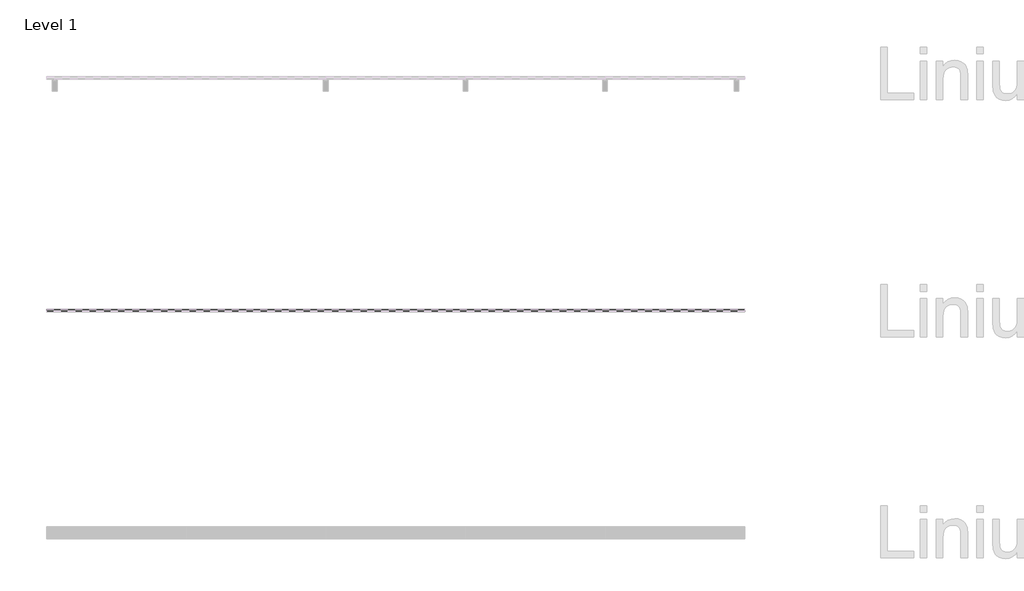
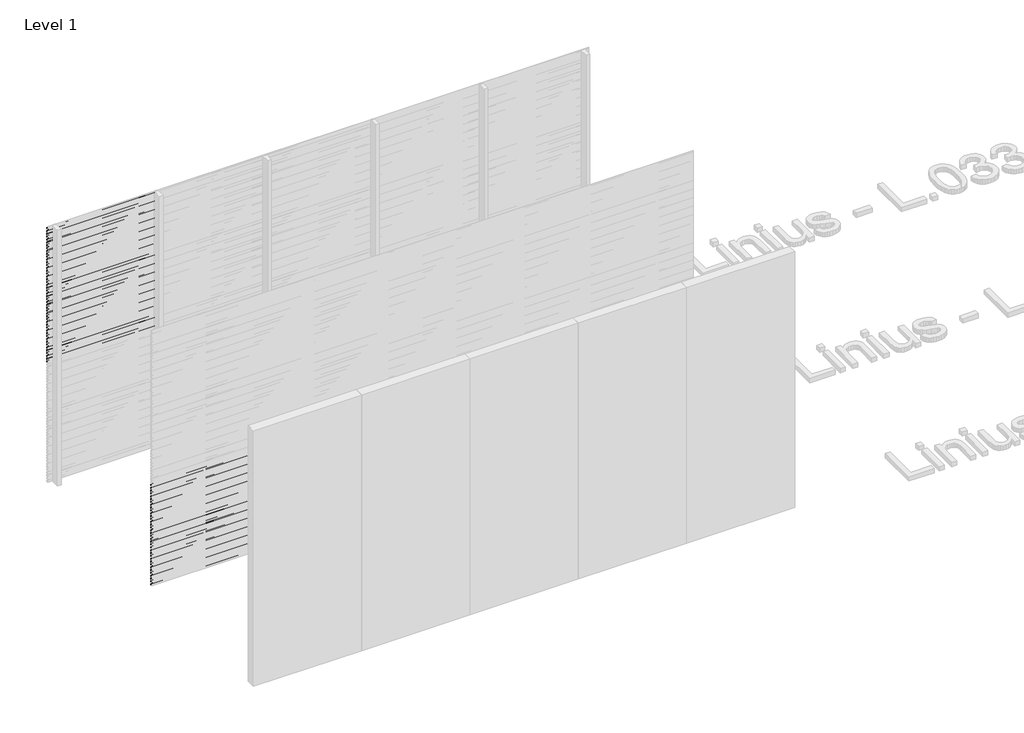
# One storey, part 35 of 507: 84 proxies.
"""IFC4 building model written with IfcOpenShell, lengths in millimetres."""

from ifc_helpers import new_model, si_unit, frame, origin, place, context, project, spatial, polyline, outline, extrude, element, save

model = new_model("IFC4")

# Units and contexts
model_context = context("Model", 3, world=origin())
ifc_project = project(units=[si_unit("LENGTHUNIT", "METRE", prefix="MILLI")], contexts=[model_context])

# Site, building, storey
site = spatial("IfcSite", under=ifc_project)
building = spatial("IfcBuilding", under=site)
storey = spatial("IfcBuildingStorey", under=building, Name="Level 1", Elevation=0.0)

# Proxies
placement = place(None, origin())
element("IfcBuildingElementProxy", 1, Name="Wall Sweeps", at=placement, inside=storey, context=model_context, shape_type="SweptSolid", body=[
    extrude(outline(polyline([(29003.4540136, 2973.0), (29003.4540136, 2959.5), (29002.2040136, 2960.2216933), (29002.2040136, 2972.2782281), (28983.0540136, 2983.3345698), (28983.0540136, 2997.0), (28984.3040136, 2997.0), (28984.3040136, 2984.0562577), (29003.4540136, 2973.0)])), frame((44966.6208097, 0.0, 0.0), z_axis=(1.0, 0.0, 0.0), x_axis=(0.0, 1.0, 0.0)), (0.0, 0.0, 1.0), 1200.0000002),
])
element("IfcBuildingElementProxy", 2, Name="Wall Sweeps", at=placement, inside=storey, context=model_context, shape_type="SweptSolid", body=[
    extrude(outline(polyline([(29003.4540136, 2939.7), (29003.4540136, 2926.2), (29002.2040136, 2926.9216933), (29002.2040136, 2938.9782281), (28983.0540136, 2950.0345698), (28983.0540136, 2963.7), (28984.3040136, 2963.7), (28984.3040136, 2950.7562577), (29003.4540136, 2939.7)])), frame((44966.6208097, 0.0, 0.0), z_axis=(1.0, 0.0, 0.0), x_axis=(0.0, 1.0, 0.0)), (0.0, 0.0, 1.0), 1200.0000002),
])
element("IfcBuildingElementProxy", 3, Name="Wall Sweeps", at=placement, inside=storey, context=model_context, shape_type="SweptSolid", body=[
    extrude(outline(polyline([(29003.4540136, 2906.4), (29003.4540136, 2892.9), (29002.2040136, 2893.6216933), (29002.2040136, 2905.6782281), (28983.0540136, 2916.7345698), (28983.0540136, 2930.4), (28984.3040136, 2930.4), (28984.3040136, 2917.4562577), (29003.4540136, 2906.4)])), frame((44966.6208097, 0.0, 0.0), z_axis=(1.0, 0.0, 0.0), x_axis=(0.0, 1.0, 0.0)), (0.0, 0.0, 1.0), 1200.0000002),
])
element("IfcBuildingElementProxy", 4, Name="Wall Sweeps", at=placement, inside=storey, context=model_context, shape_type="SweptSolid", body=[
    extrude(outline(polyline([(29003.4540136, 2873.1), (29003.4540136, 2859.6), (29002.2040136, 2860.3216933), (29002.2040136, 2872.3782281), (28983.0540136, 2883.4345698), (28983.0540136, 2897.1), (28984.3040136, 2897.1), (28984.3040136, 2884.1562577), (29003.4540136, 2873.1)])), frame((44966.6208097, 0.0, 0.0), z_axis=(1.0, 0.0, 0.0), x_axis=(0.0, 1.0, 0.0)), (0.0, 0.0, 1.0), 1200.0000002),
])
element("IfcBuildingElementProxy", 5, Name="Wall Sweeps", at=placement, inside=storey, context=model_context, shape_type="SweptSolid", body=[
    extrude(outline(polyline([(29003.4540136, 2839.8), (29003.4540136, 2826.3), (29002.2040136, 2827.0216933), (29002.2040136, 2839.0782281), (28983.0540136, 2850.1345698), (28983.0540136, 2863.8), (28984.3040136, 2863.8), (28984.3040136, 2850.8562577), (29003.4540136, 2839.8)])), frame((44966.6208097, 0.0, 0.0), z_axis=(1.0, 0.0, 0.0), x_axis=(0.0, 1.0, 0.0)), (0.0, 0.0, 1.0), 1200.0000002),
])
element("IfcBuildingElementProxy", 6, Name="Wall Sweeps", at=placement, inside=storey, context=model_context, shape_type="SweptSolid", body=[
    extrude(outline(polyline([(29003.4540136, 2806.5), (29003.4540136, 2793.0), (29002.2040136, 2793.7216933), (29002.2040136, 2805.7782281), (28983.0540136, 2816.8345698), (28983.0540136, 2830.5), (28984.3040136, 2830.5), (28984.3040136, 2817.5562577), (29003.4540136, 2806.5)])), frame((44966.6208097, 0.0, 0.0), z_axis=(1.0, 0.0, 0.0), x_axis=(0.0, 1.0, 0.0)), (0.0, 0.0, 1.0), 1200.0000002),
])
element("IfcBuildingElementProxy", 7, Name="Wall Sweeps", at=placement, inside=storey, context=model_context, shape_type="SweptSolid", body=[
    extrude(outline(polyline([(29003.4540136, 2773.2), (29003.4540136, 2759.7), (29002.2040136, 2760.4216933), (29002.2040136, 2772.4782281), (28983.0540136, 2783.5345698), (28983.0540136, 2797.2), (28984.3040136, 2797.2), (28984.3040136, 2784.2562577), (29003.4540136, 2773.2)])), frame((44966.6208097, 0.0, 0.0), z_axis=(1.0, 0.0, 0.0), x_axis=(0.0, 1.0, 0.0)), (0.0, 0.0, 1.0), 1200.0000002),
])
element("IfcBuildingElementProxy", 8, Name="Wall Sweeps", at=placement, inside=storey, context=model_context, shape_type="SweptSolid", body=[
    extrude(outline(polyline([(29003.4540136, 2739.9), (29003.4540136, 2726.4), (29002.2040136, 2727.1216933), (29002.2040136, 2739.1782281), (28983.0540136, 2750.2345698), (28983.0540136, 2763.9), (28984.3040136, 2763.9), (28984.3040136, 2750.9562577), (29003.4540136, 2739.9)])), frame((44966.6208097, 0.0, 0.0), z_axis=(1.0, 0.0, 0.0), x_axis=(0.0, 1.0, 0.0)), (0.0, 0.0, 1.0), 1200.0000002),
])
element("IfcBuildingElementProxy", 9, Name="Wall Sweeps", at=placement, inside=storey, context=model_context, shape_type="SweptSolid", body=[
    extrude(outline(polyline([(29003.4540136, 2706.6), (29003.4540136, 2693.1), (29002.2040136, 2693.8216933), (29002.2040136, 2705.8782281), (28983.0540136, 2716.9345698), (28983.0540136, 2730.6), (28984.3040136, 2730.6), (28984.3040136, 2717.6562577), (29003.4540136, 2706.6)])), frame((44966.6208097, 0.0, 0.0), z_axis=(1.0, 0.0, 0.0), x_axis=(0.0, 1.0, 0.0)), (0.0, 0.0, 1.0), 1200.0000002),
])
element("IfcBuildingElementProxy", 10, Name="Wall Sweeps", at=placement, inside=storey, context=model_context, shape_type="SweptSolid", body=[
    extrude(outline(polyline([(29003.4540136, 2673.3), (29003.4540136, 2659.8), (29002.2040136, 2660.5216933), (29002.2040136, 2672.5782281), (28983.0540136, 2683.6345698), (28983.0540136, 2697.3), (28984.3040136, 2697.3), (28984.3040136, 2684.3562577), (29003.4540136, 2673.3)])), frame((44966.6208097, 0.0, 0.0), z_axis=(1.0, 0.0, 0.0), x_axis=(0.0, 1.0, 0.0)), (0.0, 0.0, 1.0), 1200.0000002),
])
element("IfcBuildingElementProxy", 11, Name="Wall Sweeps", at=placement, inside=storey, context=model_context, shape_type="SweptSolid", body=[
    extrude(outline(polyline([(29003.4540136, 2640.0), (29003.4540136, 2626.5), (29002.2040136, 2627.2216933), (29002.2040136, 2639.2782281), (28983.0540136, 2650.3345698), (28983.0540136, 2664.0), (28984.3040136, 2664.0), (28984.3040136, 2651.0562577), (29003.4540136, 2640.0)])), frame((44966.6208097, 0.0, 0.0), z_axis=(1.0, 0.0, 0.0), x_axis=(0.0, 1.0, 0.0)), (0.0, 0.0, 1.0), 1200.0000002),
])
element("IfcBuildingElementProxy", 12, Name="Wall Sweeps", at=placement, inside=storey, context=model_context, shape_type="SweptSolid", body=[
    extrude(outline(polyline([(29003.4540136, 2606.7), (29003.4540136, 2593.2), (29002.2040136, 2593.9216933), (29002.2040136, 2605.9782281), (28983.0540136, 2617.0345698), (28983.0540136, 2630.7), (28984.3040136, 2630.7), (28984.3040136, 2617.7562577), (29003.4540136, 2606.7)])), frame((44966.6208097, 0.0, 0.0), z_axis=(1.0, 0.0, 0.0), x_axis=(0.0, 1.0, 0.0)), (0.0, 0.0, 1.0), 1200.0000002),
])
element("IfcBuildingElementProxy", 13, Name="Wall Sweeps", at=placement, inside=storey, context=model_context, shape_type="SweptSolid", body=[
    extrude(outline(polyline([(29003.4540136, 2573.4), (29003.4540136, 2559.9), (29002.2040136, 2560.6216933), (29002.2040136, 2572.6782281), (28983.0540136, 2583.7345698), (28983.0540136, 2597.4), (28984.3040136, 2597.4), (28984.3040136, 2584.4562577), (29003.4540136, 2573.4)])), frame((44966.6208097, 0.0, 0.0), z_axis=(1.0, 0.0, 0.0), x_axis=(0.0, 1.0, 0.0)), (0.0, 0.0, 1.0), 1200.0000002),
])
element("IfcBuildingElementProxy", 14, Name="Wall Sweeps", at=placement, inside=storey, context=model_context, shape_type="SweptSolid", body=[
    extrude(outline(polyline([(29003.4540136, 2540.1), (29003.4540136, 2526.6), (29002.2040136, 2527.3216933), (29002.2040136, 2539.3782281), (28983.0540136, 2550.4345698), (28983.0540136, 2564.1), (28984.3040136, 2564.1), (28984.3040136, 2551.1562577), (29003.4540136, 2540.1)])), frame((44966.6208097, 0.0, 0.0), z_axis=(1.0, 0.0, 0.0), x_axis=(0.0, 1.0, 0.0)), (0.0, 0.0, 1.0), 1200.0000002),
])
element("IfcBuildingElementProxy", 15, Name="Wall Sweeps", at=placement, inside=storey, context=model_context, shape_type="SweptSolid", body=[
    extrude(outline(polyline([(29003.4540136, 2506.8), (29003.4540136, 2493.3), (29002.2040136, 2494.0216933), (29002.2040136, 2506.0782281), (28983.0540136, 2517.1345698), (28983.0540136, 2530.8), (28984.3040136, 2530.8), (28984.3040136, 2517.8562577), (29003.4540136, 2506.8)])), frame((44966.6208097, 0.0, 0.0), z_axis=(1.0, 0.0, 0.0), x_axis=(0.0, 1.0, 0.0)), (0.0, 0.0, 1.0), 1200.0000002),
])
element("IfcBuildingElementProxy", 16, Name="Wall Sweeps", at=placement, inside=storey, context=model_context, shape_type="SweptSolid", body=[
    extrude(outline(polyline([(29003.4540136, 2473.5), (29003.4540136, 2460.0), (29002.2040136, 2460.7216933), (29002.2040136, 2472.7782281), (28983.0540136, 2483.8345698), (28983.0540136, 2497.5), (28984.3040136, 2497.5), (28984.3040136, 2484.5562577), (29003.4540136, 2473.5)])), frame((44966.6208097, 0.0, 0.0), z_axis=(1.0, 0.0, 0.0), x_axis=(0.0, 1.0, 0.0)), (0.0, 0.0, 1.0), 1200.0000002),
])
element("IfcBuildingElementProxy", 17, Name="Wall Sweeps", at=placement, inside=storey, context=model_context, shape_type="SweptSolid", body=[
    extrude(outline(polyline([(29003.4540136, 2440.2), (29003.4540136, 2426.7), (29002.2040136, 2427.4216933), (29002.2040136, 2439.4782281), (28983.0540136, 2450.5345698), (28983.0540136, 2464.2), (28984.3040136, 2464.2), (28984.3040136, 2451.2562577), (29003.4540136, 2440.2)])), frame((44966.6208097, 0.0, 0.0), z_axis=(1.0, 0.0, 0.0), x_axis=(0.0, 1.0, 0.0)), (0.0, 0.0, 1.0), 1200.0000002),
])
element("IfcBuildingElementProxy", 18, Name="Wall Sweeps", at=placement, inside=storey, context=model_context, shape_type="SweptSolid", body=[
    extrude(outline(polyline([(29003.4540136, 2406.9), (29003.4540136, 2393.4), (29002.2040136, 2394.1216933), (29002.2040136, 2406.1782281), (28983.0540136, 2417.2345698), (28983.0540136, 2430.9), (28984.3040136, 2430.9), (28984.3040136, 2417.9562577), (29003.4540136, 2406.9)])), frame((44966.6208097, 0.0, 0.0), z_axis=(1.0, 0.0, 0.0), x_axis=(0.0, 1.0, 0.0)), (0.0, 0.0, 1.0), 1200.0000002),
])
element("IfcBuildingElementProxy", 19, Name="Wall Sweeps", at=placement, inside=storey, context=model_context, shape_type="SweptSolid", body=[
    extrude(outline(polyline([(29003.4540136, 2373.6), (29003.4540136, 2360.1), (29002.2040136, 2360.8216933), (29002.2040136, 2372.8782281), (28983.0540136, 2383.9345698), (28983.0540136, 2397.6), (28984.3040136, 2397.6), (28984.3040136, 2384.6562577), (29003.4540136, 2373.6)])), frame((44966.6208097, 0.0, 0.0), z_axis=(1.0, 0.0, 0.0), x_axis=(0.0, 1.0, 0.0)), (0.0, 0.0, 1.0), 1200.0000002),
])
element("IfcBuildingElementProxy", 20, Name="Wall Sweeps", at=placement, inside=storey, context=model_context, shape_type="SweptSolid", body=[
    extrude(outline(polyline([(29003.4540136, 2340.3), (29003.4540136, 2326.8), (29002.2040136, 2327.5216933), (29002.2040136, 2339.5782281), (28983.0540136, 2350.6345698), (28983.0540136, 2364.3), (28984.3040136, 2364.3), (28984.3040136, 2351.3562577), (29003.4540136, 2340.3)])), frame((44966.6208097, 0.0, 0.0), z_axis=(1.0, 0.0, 0.0), x_axis=(0.0, 1.0, 0.0)), (0.0, 0.0, 1.0), 1200.0000002),
])
element("IfcBuildingElementProxy", 21, Name="Wall Sweeps", at=placement, inside=storey, context=model_context, shape_type="SweptSolid", body=[
    extrude(outline(polyline([(29003.4540136, 2307.0), (29003.4540136, 2293.5), (29002.2040136, 2294.2216933), (29002.2040136, 2306.2782281), (28983.0540136, 2317.3345698), (28983.0540136, 2331.0), (28984.3040136, 2331.0), (28984.3040136, 2318.0562577), (29003.4540136, 2307.0)])), frame((44966.6208097, 0.0, 0.0), z_axis=(1.0, 0.0, 0.0), x_axis=(0.0, 1.0, 0.0)), (0.0, 0.0, 1.0), 1200.0000002),
])
element("IfcBuildingElementProxy", 22, Name="Wall Sweeps", at=placement, inside=storey, context=model_context, shape_type="SweptSolid", body=[
    extrude(outline(polyline([(29003.4540136, 2273.7), (29003.4540136, 2260.2), (29002.2040136, 2260.9216933), (29002.2040136, 2272.9782281), (28983.0540136, 2284.0345698), (28983.0540136, 2297.7), (28984.3040136, 2297.7), (28984.3040136, 2284.7562577), (29003.4540136, 2273.7)])), frame((44966.6208097, 0.0, 0.0), z_axis=(1.0, 0.0, 0.0), x_axis=(0.0, 1.0, 0.0)), (0.0, 0.0, 1.0), 1200.0000002),
])
element("IfcBuildingElementProxy", 23, Name="Wall Sweeps", at=placement, inside=storey, context=model_context, shape_type="SweptSolid", body=[
    extrude(outline(polyline([(29003.4540136, 2240.4), (29003.4540136, 2226.9), (29002.2040136, 2227.6216933), (29002.2040136, 2239.6782281), (28983.0540136, 2250.7345698), (28983.0540136, 2264.4), (28984.3040136, 2264.4), (28984.3040136, 2251.4562577), (29003.4540136, 2240.4)])), frame((44966.6208097, 0.0, 0.0), z_axis=(1.0, 0.0, 0.0), x_axis=(0.0, 1.0, 0.0)), (0.0, 0.0, 1.0), 1200.0000002),
])
element("IfcBuildingElementProxy", 24, Name="Wall Sweeps", at=placement, inside=storey, context=model_context, shape_type="SweptSolid", body=[
    extrude(outline(polyline([(29003.4540136, 2207.1), (29003.4540136, 2193.6), (29002.2040136, 2194.3216933), (29002.2040136, 2206.3782281), (28983.0540136, 2217.4345698), (28983.0540136, 2231.1), (28984.3040136, 2231.1), (28984.3040136, 2218.1562577), (29003.4540136, 2207.1)])), frame((44966.6208097, 0.0, 0.0), z_axis=(1.0, 0.0, 0.0), x_axis=(0.0, 1.0, 0.0)), (0.0, 0.0, 1.0), 1200.0000002),
])
element("IfcBuildingElementProxy", 25, Name="Wall Sweeps", at=placement, inside=storey, context=model_context, shape_type="SweptSolid", body=[
    extrude(outline(polyline([(29003.4540136, 2173.8), (29003.4540136, 2160.3), (29002.2040136, 2161.0216933), (29002.2040136, 2173.0782281), (28983.0540136, 2184.1345698), (28983.0540136, 2197.8), (28984.3040136, 2197.8), (28984.3040136, 2184.8562577), (29003.4540136, 2173.8)])), frame((44966.6208097, 0.0, 0.0), z_axis=(1.0, 0.0, 0.0), x_axis=(0.0, 1.0, 0.0)), (0.0, 0.0, 1.0), 1200.0000002),
])
element("IfcBuildingElementProxy", 26, Name="Wall Sweeps", at=placement, inside=storey, context=model_context, shape_type="SweptSolid", body=[
    extrude(outline(polyline([(29003.4540136, 2140.5), (29003.4540136, 2127.0), (29002.2040136, 2127.7216933), (29002.2040136, 2139.7782281), (28983.0540136, 2150.8345698), (28983.0540136, 2164.5), (28984.3040136, 2164.5), (28984.3040136, 2151.5562577), (29003.4540136, 2140.5)])), frame((44966.6208097, 0.0, 0.0), z_axis=(1.0, 0.0, 0.0), x_axis=(0.0, 1.0, 0.0)), (0.0, 0.0, 1.0), 1200.0000002),
])
element("IfcBuildingElementProxy", 27, Name="Wall Sweeps", at=placement, inside=storey, context=model_context, shape_type="SweptSolid", body=[
    extrude(outline(polyline([(29003.4540136, 2107.2), (29003.4540136, 2093.7), (29002.2040136, 2094.4216933), (29002.2040136, 2106.4782281), (28983.0540136, 2117.5345698), (28983.0540136, 2131.2), (28984.3040136, 2131.2), (28984.3040136, 2118.2562577), (29003.4540136, 2107.2)])), frame((44966.6208097, 0.0, 0.0), z_axis=(1.0, 0.0, 0.0), x_axis=(0.0, 1.0, 0.0)), (0.0, 0.0, 1.0), 1200.0000002),
])
element("IfcBuildingElementProxy", 28, Name="Wall Sweeps", at=placement, inside=storey, context=model_context, shape_type="SweptSolid", body=[
    extrude(outline(polyline([(29003.4540136, 2073.9), (29003.4540136, 2060.4), (29002.2040136, 2061.1216933), (29002.2040136, 2073.1782281), (28983.0540136, 2084.2345698), (28983.0540136, 2097.9), (28984.3040136, 2097.9), (28984.3040136, 2084.9562577), (29003.4540136, 2073.9)])), frame((44966.6208097, 0.0, 0.0), z_axis=(1.0, 0.0, 0.0), x_axis=(0.0, 1.0, 0.0)), (0.0, 0.0, 1.0), 1200.0000002),
])
element("IfcBuildingElementProxy", 29, Name="Wall Sweeps", at=placement, inside=storey, context=model_context, shape_type="SweptSolid", body=[
    extrude(outline(polyline([(29003.4540136, 2040.6), (29003.4540136, 2027.1), (29002.2040136, 2027.8216933), (29002.2040136, 2039.8782281), (28983.0540136, 2050.9345698), (28983.0540136, 2064.6), (28984.3040136, 2064.6), (28984.3040136, 2051.6562577), (29003.4540136, 2040.6)])), frame((44966.6208097, 0.0, 0.0), z_axis=(1.0, 0.0, 0.0), x_axis=(0.0, 1.0, 0.0)), (0.0, 0.0, 1.0), 1200.0000002),
])
element("IfcBuildingElementProxy", 30, Name="Wall Sweeps", at=placement, inside=storey, context=model_context, shape_type="SweptSolid", body=[
    extrude(outline(polyline([(29003.4540136, 2007.3), (29003.4540136, 1993.8), (29002.2040136, 1994.5216933), (29002.2040136, 2006.5782281), (28983.0540136, 2017.6345698), (28983.0540136, 2031.3), (28984.3040136, 2031.3), (28984.3040136, 2018.3562577), (29003.4540136, 2007.3)])), frame((44966.6208097, 0.0, 0.0), z_axis=(1.0, 0.0, 0.0), x_axis=(0.0, 1.0, 0.0)), (0.0, 0.0, 1.0), 1200.0000002),
])
element("IfcBuildingElementProxy", 31, Name="Wall Sweeps", at=placement, inside=storey, context=model_context, shape_type="SweptSolid", body=[
    extrude(outline(polyline([(29003.4540136, 1974.0), (29003.4540136, 1960.5), (29002.2040136, 1961.2216933), (29002.2040136, 1973.2782281), (28983.0540136, 1984.3345698), (28983.0540136, 1998.0), (28984.3040136, 1998.0), (28984.3040136, 1985.0562577), (29003.4540136, 1974.0)])), frame((44966.6208097, 0.0, 0.0), z_axis=(1.0, 0.0, 0.0), x_axis=(0.0, 1.0, 0.0)), (0.0, 0.0, 1.0), 1200.0000002),
])
element("IfcBuildingElementProxy", 32, Name="Wall Sweeps", at=placement, inside=storey, context=model_context, shape_type="SweptSolid", body=[
    extrude(outline(polyline([(29003.4540136, 1940.7), (29003.4540136, 1927.2), (29002.2040136, 1927.9216933), (29002.2040136, 1939.9782281), (28983.0540136, 1951.0345698), (28983.0540136, 1964.7), (28984.3040136, 1964.7), (28984.3040136, 1951.7562577), (29003.4540136, 1940.7)])), frame((44966.6208097, 0.0, 0.0), z_axis=(1.0, 0.0, 0.0), x_axis=(0.0, 1.0, 0.0)), (0.0, 0.0, 1.0), 1200.0000002),
])
element("IfcBuildingElementProxy", 33, Name="Wall Sweeps", at=placement, inside=storey, context=model_context, shape_type="SweptSolid", body=[
    extrude(outline(polyline([(29003.4540136, 1907.4), (29003.4540136, 1893.9), (29002.2040136, 1894.6216933), (29002.2040136, 1906.6782281), (28983.0540136, 1917.7345698), (28983.0540136, 1931.4), (28984.3040136, 1931.4), (28984.3040136, 1918.4562577), (29003.4540136, 1907.4)])), frame((44966.6208097, 0.0, 0.0), z_axis=(1.0, 0.0, 0.0), x_axis=(0.0, 1.0, 0.0)), (0.0, 0.0, 1.0), 1200.0000002),
])
element("IfcBuildingElementProxy", 34, Name="Wall Sweeps", at=placement, inside=storey, context=model_context, shape_type="SweptSolid", body=[
    extrude(outline(polyline([(29003.4540136, 1874.1), (29003.4540136, 1860.6), (29002.2040136, 1861.3216933), (29002.2040136, 1873.3782281), (28983.0540136, 1884.4345698), (28983.0540136, 1898.1), (28984.3040136, 1898.1), (28984.3040136, 1885.1562577), (29003.4540136, 1874.1)])), frame((44966.6208097, 0.0, 0.0), z_axis=(1.0, 0.0, 0.0), x_axis=(0.0, 1.0, 0.0)), (0.0, 0.0, 1.0), 1200.0000002),
])
element("IfcBuildingElementProxy", 35, Name="Wall Sweeps", at=placement, inside=storey, context=model_context, shape_type="SweptSolid", body=[
    extrude(outline(polyline([(29003.4540136, 1840.8), (29003.4540136, 1827.3), (29002.2040136, 1828.0216933), (29002.2040136, 1840.0782281), (28983.0540136, 1851.1345698), (28983.0540136, 1864.8), (28984.3040136, 1864.8), (28984.3040136, 1851.8562577), (29003.4540136, 1840.8)])), frame((44966.6208097, 0.0, 0.0), z_axis=(1.0, 0.0, 0.0), x_axis=(0.0, 1.0, 0.0)), (0.0, 0.0, 1.0), 1200.0000002),
])
element("IfcBuildingElementProxy", 36, Name="Wall Sweeps", at=placement, inside=storey, context=model_context, shape_type="SweptSolid", body=[
    extrude(outline(polyline([(29003.4540136, 1807.5), (29003.4540136, 1794.0), (29002.2040136, 1794.7216933), (29002.2040136, 1806.7782281), (28983.0540136, 1817.8345698), (28983.0540136, 1831.5), (28984.3040136, 1831.5), (28984.3040136, 1818.5562577), (29003.4540136, 1807.5)])), frame((44966.6208097, 0.0, 0.0), z_axis=(1.0, 0.0, 0.0), x_axis=(0.0, 1.0, 0.0)), (0.0, 0.0, 1.0), 1200.0000002),
])
element("IfcBuildingElementProxy", 37, Name="Wall Sweeps", at=placement, inside=storey, context=model_context, shape_type="SweptSolid", body=[
    extrude(outline(polyline([(29003.4540136, 1774.2), (29003.4540136, 1760.7), (29002.2040136, 1761.4216933), (29002.2040136, 1773.4782281), (28983.0540136, 1784.5345698), (28983.0540136, 1798.2), (28984.3040136, 1798.2), (28984.3040136, 1785.2562577), (29003.4540136, 1774.2)])), frame((44966.6208097, 0.0, 0.0), z_axis=(1.0, 0.0, 0.0), x_axis=(0.0, 1.0, 0.0)), (0.0, 0.0, 1.0), 1200.0000002),
])
element("IfcBuildingElementProxy", 38, Name="Wall Sweeps", at=placement, inside=storey, context=model_context, shape_type="SweptSolid", body=[
    extrude(outline(polyline([(29003.4540136, 1740.9), (29003.4540136, 1727.4), (29002.2040136, 1728.1216933), (29002.2040136, 1740.1782281), (28983.0540136, 1751.2345698), (28983.0540136, 1764.9), (28984.3040136, 1764.9), (28984.3040136, 1751.9562577), (29003.4540136, 1740.9)])), frame((44966.6208097, 0.0, 0.0), z_axis=(1.0, 0.0, 0.0), x_axis=(0.0, 1.0, 0.0)), (0.0, 0.0, 1.0), 1200.0000002),
])
element("IfcBuildingElementProxy", 39, Name="Wall Sweeps", at=placement, inside=storey, context=model_context, shape_type="SweptSolid", body=[
    extrude(outline(polyline([(29003.4540136, 1707.6), (29003.4540136, 1694.1), (29002.2040136, 1694.8216933), (29002.2040136, 1706.8782281), (28983.0540136, 1717.9345698), (28983.0540136, 1731.6), (28984.3040136, 1731.6), (28984.3040136, 1718.6562577), (29003.4540136, 1707.6)])), frame((44966.6208097, 0.0, 0.0), z_axis=(1.0, 0.0, 0.0), x_axis=(0.0, 1.0, 0.0)), (0.0, 0.0, 1.0), 1200.0000002),
])
element("IfcBuildingElementProxy", 40, Name="Wall Sweeps", at=placement, inside=storey, context=model_context, shape_type="SweptSolid", body=[
    extrude(outline(polyline([(29003.4540136, 1674.3), (29003.4540136, 1660.8), (29002.2040136, 1661.5216933), (29002.2040136, 1673.5782281), (28983.0540136, 1684.6345698), (28983.0540136, 1698.3), (28984.3040136, 1698.3), (28984.3040136, 1685.3562577), (29003.4540136, 1674.3)])), frame((44966.6208097, 0.0, 0.0), z_axis=(1.0, 0.0, 0.0), x_axis=(0.0, 1.0, 0.0)), (0.0, 0.0, 1.0), 1200.0000002),
])
element("IfcBuildingElementProxy", 41, Name="Wall Sweeps", at=placement, inside=storey, context=model_context, shape_type="SweptSolid", body=[
    extrude(outline(polyline([(29003.4540136, 1641.0), (29003.4540136, 1627.5), (29002.2040136, 1628.2216933), (29002.2040136, 1640.2782281), (28983.0540136, 1651.3345698), (28983.0540136, 1665.0), (28984.3040136, 1665.0), (28984.3040136, 1652.0562577), (29003.4540136, 1641.0)])), frame((44966.6208097, 0.0, 0.0), z_axis=(1.0, 0.0, 0.0), x_axis=(0.0, 1.0, 0.0)), (0.0, 0.0, 1.0), 1200.0000002),
])
element("IfcBuildingElementProxy", 42, Name="Wall Sweeps", at=placement, inside=storey, context=model_context, shape_type="SweptSolid", body=[
    extrude(outline(polyline([(29003.4540136, 1607.7), (29003.4540136, 1594.2), (29002.2040136, 1594.9216933), (29002.2040136, 1606.9782281), (28983.0540136, 1618.0345698), (28983.0540136, 1631.7), (28984.3040136, 1631.7), (28984.3040136, 1618.7562577), (29003.4540136, 1607.7)])), frame((44966.6208097, 0.0, 0.0), z_axis=(1.0, 0.0, 0.0), x_axis=(0.0, 1.0, 0.0)), (0.0, 0.0, 1.0), 1200.0000002),
])
element("IfcBuildingElementProxy", 43, Name="Wall Sweeps", at=placement, inside=storey, context=model_context, shape_type="SweptSolid", body=[
    extrude(outline(polyline([(29003.4540136, 1574.4), (29003.4540136, 1560.9), (29002.2040136, 1561.6216933), (29002.2040136, 1573.6782281), (28983.0540136, 1584.7345698), (28983.0540136, 1598.4), (28984.3040136, 1598.4), (28984.3040136, 1585.4562577), (29003.4540136, 1574.4)])), frame((44966.6208097, 0.0, 0.0), z_axis=(1.0, 0.0, 0.0), x_axis=(0.0, 1.0, 0.0)), (0.0, 0.0, 1.0), 1200.0000002),
])
element("IfcBuildingElementProxy", 44, Name="Wall Sweeps", at=placement, inside=storey, context=model_context, shape_type="SweptSolid", body=[
    extrude(outline(polyline([(29003.4540136, 1541.1), (29003.4540136, 1527.6), (29002.2040136, 1528.3216933), (29002.2040136, 1540.3782281), (28983.0540136, 1551.4345698), (28983.0540136, 1565.1), (28984.3040136, 1565.1), (28984.3040136, 1552.1562577), (29003.4540136, 1541.1)])), frame((44966.6208097, 0.0, 0.0), z_axis=(1.0, 0.0, 0.0), x_axis=(0.0, 1.0, 0.0)), (0.0, 0.0, 1.0), 1200.0000002),
])
element("IfcBuildingElementProxy", 45, Name="Wall Sweeps", at=placement, inside=storey, context=model_context, shape_type="SweptSolid", body=[
    extrude(outline(polyline([(29003.4540136, 1507.8), (29003.4540136, 1494.3), (29002.2040136, 1495.0216933), (29002.2040136, 1507.0782281), (28983.0540136, 1518.1345698), (28983.0540136, 1531.8), (28984.3040136, 1531.8), (28984.3040136, 1518.8562577), (29003.4540136, 1507.8)])), frame((44966.6208097, 0.0, 0.0), z_axis=(1.0, 0.0, 0.0), x_axis=(0.0, 1.0, 0.0)), (0.0, 0.0, 1.0), 1200.0000002),
])
element("IfcBuildingElementProxy", 46, Name="Wall Sweeps", at=placement, inside=storey, context=model_context, shape_type="SweptSolid", body=[
    extrude(outline(polyline([(29003.4540136, 1474.5), (29003.4540136, 1461.0), (29002.2040136, 1461.7216933), (29002.2040136, 1473.7782281), (28983.0540136, 1484.8345698), (28983.0540136, 1498.5), (28984.3040136, 1498.5), (28984.3040136, 1485.5562577), (29003.4540136, 1474.5)])), frame((44966.6208097, 0.0, 0.0), z_axis=(1.0, 0.0, 0.0), x_axis=(0.0, 1.0, 0.0)), (0.0, 0.0, 1.0), 1200.0000002),
])
element("IfcBuildingElementProxy", 47, Name="Wall Sweeps", at=placement, inside=storey, context=model_context, shape_type="SweptSolid", body=[
    extrude(outline(polyline([(29003.4540136, 1441.2), (29003.4540136, 1427.7), (29002.2040136, 1428.4216933), (29002.2040136, 1440.4782281), (28983.0540136, 1451.5345698), (28983.0540136, 1465.2), (28984.3040136, 1465.2), (28984.3040136, 1452.2562577), (29003.4540136, 1441.2)])), frame((44966.6208097, 0.0, 0.0), z_axis=(1.0, 0.0, 0.0), x_axis=(0.0, 1.0, 0.0)), (0.0, 0.0, 1.0), 1200.0000002),
])
element("IfcBuildingElementProxy", 48, Name="Wall Sweeps", at=placement, inside=storey, context=model_context, shape_type="SweptSolid", body=[
    extrude(outline(polyline([(29003.4540136, 1407.9), (29003.4540136, 1394.4), (29002.2040136, 1395.1216933), (29002.2040136, 1407.1782281), (28983.0540136, 1418.2345698), (28983.0540136, 1431.9), (28984.3040136, 1431.9), (28984.3040136, 1418.9562577), (29003.4540136, 1407.9)])), frame((44966.6208097, 0.0, 0.0), z_axis=(1.0, 0.0, 0.0), x_axis=(0.0, 1.0, 0.0)), (0.0, 0.0, 1.0), 1200.0000002),
])
element("IfcBuildingElementProxy", 49, Name="Wall Sweeps", at=placement, inside=storey, context=model_context, shape_type="SweptSolid", body=[
    extrude(outline(polyline([(27003.4540136, 1174.8), (27003.4540136, 1161.3), (27002.2040136, 1162.0216933), (27002.2040136, 1174.0782281), (26983.0540136, 1185.1345698), (26983.0540136, 1198.8), (26984.3040136, 1198.8), (26984.3040136, 1185.8562577), (27003.4540136, 1174.8)])), frame((44966.6208097, 0.0, 0.0), z_axis=(1.0, 0.0, 0.0), x_axis=(0.0, 1.0, 0.0)), (0.0, 0.0, 1.0), 6000.0),
])
element("IfcBuildingElementProxy", 50, Name="Wall Sweeps", at=placement, inside=storey, context=model_context, shape_type="SweptSolid", body=[
    extrude(outline(polyline([(27003.4540136, 1141.5), (27003.4540136, 1128.0), (27002.2040136, 1128.7216933), (27002.2040136, 1140.7782281), (26983.0540136, 1151.8345698), (26983.0540136, 1165.5), (26984.3040136, 1165.5), (26984.3040136, 1152.5562577), (27003.4540136, 1141.5)])), frame((44966.6208097, 0.0, 0.0), z_axis=(1.0, 0.0, 0.0), x_axis=(0.0, 1.0, 0.0)), (0.0, 0.0, 1.0), 6000.0),
])
element("IfcBuildingElementProxy", 51, Name="Wall Sweeps", at=placement, inside=storey, context=model_context, shape_type="SweptSolid", body=[
    extrude(outline(polyline([(27003.4540136, 1108.2), (27003.4540136, 1094.7), (27002.2040136, 1095.4216933), (27002.2040136, 1107.4782281), (26983.0540136, 1118.5345698), (26983.0540136, 1132.2), (26984.3040136, 1132.2), (26984.3040136, 1119.2562577), (27003.4540136, 1108.2)])), frame((44966.6208097, 0.0, 0.0), z_axis=(1.0, 0.0, 0.0), x_axis=(0.0, 1.0, 0.0)), (0.0, 0.0, 1.0), 6000.0),
])
element("IfcBuildingElementProxy", 52, Name="Wall Sweeps", at=placement, inside=storey, context=model_context, shape_type="SweptSolid", body=[
    extrude(outline(polyline([(27003.4540136, 1074.9), (27003.4540136, 1061.4), (27002.2040136, 1062.1216933), (27002.2040136, 1074.1782281), (26983.0540136, 1085.2345698), (26983.0540136, 1098.9), (26984.3040136, 1098.9), (26984.3040136, 1085.9562577), (27003.4540136, 1074.9)])), frame((44966.6208097, 0.0, 0.0), z_axis=(1.0, 0.0, 0.0), x_axis=(0.0, 1.0, 0.0)), (0.0, 0.0, 1.0), 6000.0),
])
element("IfcBuildingElementProxy", 53, Name="Wall Sweeps", at=placement, inside=storey, context=model_context, shape_type="SweptSolid", body=[
    extrude(outline(polyline([(27003.4540136, 1041.6), (27003.4540136, 1028.1), (27002.2040136, 1028.8216933), (27002.2040136, 1040.8782281), (26983.0540136, 1051.9345698), (26983.0540136, 1065.6), (26984.3040136, 1065.6), (26984.3040136, 1052.6562577), (27003.4540136, 1041.6)])), frame((44966.6208097, 0.0, 0.0), z_axis=(1.0, 0.0, 0.0), x_axis=(0.0, 1.0, 0.0)), (0.0, 0.0, 1.0), 6000.0),
])
element("IfcBuildingElementProxy", 54, Name="Wall Sweeps", at=placement, inside=storey, context=model_context, shape_type="SweptSolid", body=[
    extrude(outline(polyline([(27003.4540136, 1008.3), (27003.4540136, 994.8), (27002.2040136, 995.5216933), (27002.2040136, 1007.5782281), (26983.0540136, 1018.6345698), (26983.0540136, 1032.3), (26984.3040136, 1032.3), (26984.3040136, 1019.3562577), (27003.4540136, 1008.3)])), frame((44966.6208097, 0.0, 0.0), z_axis=(1.0, 0.0, 0.0), x_axis=(0.0, 1.0, 0.0)), (0.0, 0.0, 1.0), 6000.0),
])
element("IfcBuildingElementProxy", 55, Name="Wall Sweeps", at=placement, inside=storey, context=model_context, shape_type="SweptSolid", body=[
    extrude(outline(polyline([(27003.4540136, 975.0), (27003.4540136, 961.5), (27002.2040136, 962.2216933), (27002.2040136, 974.2782281), (26983.0540136, 985.3345698), (26983.0540136, 999.0), (26984.3040136, 999.0), (26984.3040136, 986.0562577), (27003.4540136, 975.0)])), frame((44966.6208097, 0.0, 0.0), z_axis=(1.0, 0.0, 0.0), x_axis=(0.0, 1.0, 0.0)), (0.0, 0.0, 1.0), 6000.0),
])
element("IfcBuildingElementProxy", 56, Name="Wall Sweeps", at=placement, inside=storey, context=model_context, shape_type="SweptSolid", body=[
    extrude(outline(polyline([(27003.4540136, 941.7), (27003.4540136, 928.2), (27002.2040136, 928.9216933), (27002.2040136, 940.9782281), (26983.0540136, 952.0345698), (26983.0540136, 965.7), (26984.3040136, 965.7), (26984.3040136, 952.7562577), (27003.4540136, 941.7)])), frame((44966.6208097, 0.0, 0.0), z_axis=(1.0, 0.0, 0.0), x_axis=(0.0, 1.0, 0.0)), (0.0, 0.0, 1.0), 6000.0),
])
element("IfcBuildingElementProxy", 57, Name="Wall Sweeps", at=placement, inside=storey, context=model_context, shape_type="SweptSolid", body=[
    extrude(outline(polyline([(27003.4540136, 908.4), (27003.4540136, 894.9), (27002.2040136, 895.6216933), (27002.2040136, 907.6782281), (26983.0540136, 918.7345698), (26983.0540136, 932.4), (26984.3040136, 932.4), (26984.3040136, 919.4562577), (27003.4540136, 908.4)])), frame((44966.6208097, 0.0, 0.0), z_axis=(1.0, 0.0, 0.0), x_axis=(0.0, 1.0, 0.0)), (0.0, 0.0, 1.0), 6000.0),
])
element("IfcBuildingElementProxy", 58, Name="Wall Sweeps", at=placement, inside=storey, context=model_context, shape_type="SweptSolid", body=[
    extrude(outline(polyline([(27003.4540136, 875.1), (27003.4540136, 861.6), (27002.2040136, 862.3216933), (27002.2040136, 874.3782281), (26983.0540136, 885.4345698), (26983.0540136, 899.1), (26984.3040136, 899.1), (26984.3040136, 886.1562577), (27003.4540136, 875.1)])), frame((44966.6208097, 0.0, 0.0), z_axis=(1.0, 0.0, 0.0), x_axis=(0.0, 1.0, 0.0)), (0.0, 0.0, 1.0), 6000.0),
])
element("IfcBuildingElementProxy", 59, Name="Wall Sweeps", at=placement, inside=storey, context=model_context, shape_type="SweptSolid", body=[
    extrude(outline(polyline([(27003.4540136, 841.8), (27003.4540136, 828.3), (27002.2040136, 829.0216933), (27002.2040136, 841.0782281), (26983.0540136, 852.1345698), (26983.0540136, 865.8), (26984.3040136, 865.8), (26984.3040136, 852.8562577), (27003.4540136, 841.8)])), frame((44966.6208097, 0.0, 0.0), z_axis=(1.0, 0.0, 0.0), x_axis=(0.0, 1.0, 0.0)), (0.0, 0.0, 1.0), 6000.0),
])
element("IfcBuildingElementProxy", 60, Name="Wall Sweeps", at=placement, inside=storey, context=model_context, shape_type="SweptSolid", body=[
    extrude(outline(polyline([(27003.4540136, 808.5), (27003.4540136, 795.0), (27002.2040136, 795.7216933), (27002.2040136, 807.7782281), (26983.0540136, 818.8345698), (26983.0540136, 832.5), (26984.3040136, 832.5), (26984.3040136, 819.5562577), (27003.4540136, 808.5)])), frame((44966.6208097, 0.0, 0.0), z_axis=(1.0, 0.0, 0.0), x_axis=(0.0, 1.0, 0.0)), (0.0, 0.0, 1.0), 6000.0),
])
element("IfcBuildingElementProxy", 61, Name="Wall Sweeps", at=placement, inside=storey, context=model_context, shape_type="SweptSolid", body=[
    extrude(outline(polyline([(27003.4540136, 775.2), (27003.4540136, 761.7), (27002.2040136, 762.4216933), (27002.2040136, 774.4782281), (26983.0540136, 785.5345698), (26983.0540136, 799.2), (26984.3040136, 799.2), (26984.3040136, 786.2562577), (27003.4540136, 775.2)])), frame((44966.6208097, 0.0, 0.0), z_axis=(1.0, 0.0, 0.0), x_axis=(0.0, 1.0, 0.0)), (0.0, 0.0, 1.0), 6000.0),
])
element("IfcBuildingElementProxy", 62, Name="Wall Sweeps", at=placement, inside=storey, context=model_context, shape_type="SweptSolid", body=[
    extrude(outline(polyline([(27003.4540136, 741.9), (27003.4540136, 728.4), (27002.2040136, 729.1216933), (27002.2040136, 741.1782281), (26983.0540136, 752.2345698), (26983.0540136, 765.9), (26984.3040136, 765.9), (26984.3040136, 752.9562577), (27003.4540136, 741.9)])), frame((44966.6208097, 0.0, 0.0), z_axis=(1.0, 0.0, 0.0), x_axis=(0.0, 1.0, 0.0)), (0.0, 0.0, 1.0), 6000.0),
])
element("IfcBuildingElementProxy", 63, Name="Wall Sweeps", at=placement, inside=storey, context=model_context, shape_type="SweptSolid", body=[
    extrude(outline(polyline([(27003.4540136, 708.6), (27003.4540136, 695.1), (27002.2040136, 695.8216933), (27002.2040136, 707.8782281), (26983.0540136, 718.9345698), (26983.0540136, 732.6), (26984.3040136, 732.6), (26984.3040136, 719.6562577), (27003.4540136, 708.6)])), frame((44966.6208097, 0.0, 0.0), z_axis=(1.0, 0.0, 0.0), x_axis=(0.0, 1.0, 0.0)), (0.0, 0.0, 1.0), 6000.0),
])
element("IfcBuildingElementProxy", 64, Name="Wall Sweeps", at=placement, inside=storey, context=model_context, shape_type="SweptSolid", body=[
    extrude(outline(polyline([(27003.4540136, 675.3), (27003.4540136, 661.8), (27002.2040136, 662.5216933), (27002.2040136, 674.5782281), (26983.0540136, 685.6345698), (26983.0540136, 699.3), (26984.3040136, 699.3), (26984.3040136, 686.3562577), (27003.4540136, 675.3)])), frame((44966.6208097, 0.0, 0.0), z_axis=(1.0, 0.0, 0.0), x_axis=(0.0, 1.0, 0.0)), (0.0, 0.0, 1.0), 6000.0),
])
element("IfcBuildingElementProxy", 65, Name="Wall Sweeps", at=placement, inside=storey, context=model_context, shape_type="SweptSolid", body=[
    extrude(outline(polyline([(27003.4540136, 642.0), (27003.4540136, 628.5), (27002.2040136, 629.2216933), (27002.2040136, 641.2782281), (26983.0540136, 652.3345698), (26983.0540136, 666.0), (26984.3040136, 666.0), (26984.3040136, 653.0562577), (27003.4540136, 642.0)])), frame((44966.6208097, 0.0, 0.0), z_axis=(1.0, 0.0, 0.0), x_axis=(0.0, 1.0, 0.0)), (0.0, 0.0, 1.0), 6000.0),
])
element("IfcBuildingElementProxy", 66, Name="Wall Sweeps", at=placement, inside=storey, context=model_context, shape_type="SweptSolid", body=[
    extrude(outline(polyline([(27003.4540136, 608.7), (27003.4540136, 595.2), (27002.2040136, 595.9216933), (27002.2040136, 607.9782281), (26983.0540136, 619.0345698), (26983.0540136, 632.7), (26984.3040136, 632.7), (26984.3040136, 619.7562577), (27003.4540136, 608.7)])), frame((44966.6208097, 0.0, 0.0), z_axis=(1.0, 0.0, 0.0), x_axis=(0.0, 1.0, 0.0)), (0.0, 0.0, 1.0), 6000.0),
])
element("IfcBuildingElementProxy", 67, Name="Wall Sweeps", at=placement, inside=storey, context=model_context, shape_type="SweptSolid", body=[
    extrude(outline(polyline([(27003.4540136, 575.4), (27003.4540136, 561.9), (27002.2040136, 562.6216933), (27002.2040136, 574.6782281), (26983.0540136, 585.7345698), (26983.0540136, 599.4), (26984.3040136, 599.4), (26984.3040136, 586.4562577), (27003.4540136, 575.4)])), frame((44966.6208097, 0.0, 0.0), z_axis=(1.0, 0.0, 0.0), x_axis=(0.0, 1.0, 0.0)), (0.0, 0.0, 1.0), 6000.0),
])
element("IfcBuildingElementProxy", 68, Name="Wall Sweeps", at=placement, inside=storey, context=model_context, shape_type="SweptSolid", body=[
    extrude(outline(polyline([(27003.4540136, 542.1), (27003.4540136, 528.6), (27002.2040136, 529.3216933), (27002.2040136, 541.3782281), (26983.0540136, 552.4345698), (26983.0540136, 566.1), (26984.3040136, 566.1), (26984.3040136, 553.1562577), (27003.4540136, 542.1)])), frame((44966.6208097, 0.0, 0.0), z_axis=(1.0, 0.0, 0.0), x_axis=(0.0, 1.0, 0.0)), (0.0, 0.0, 1.0), 6000.0),
])
element("IfcBuildingElementProxy", 69, Name="Wall Sweeps", at=placement, inside=storey, context=model_context, shape_type="SweptSolid", body=[
    extrude(outline(polyline([(27003.4540136, 508.8), (27003.4540136, 495.3), (27002.2040136, 496.0216933), (27002.2040136, 508.0782281), (26983.0540136, 519.1345698), (26983.0540136, 532.8), (26984.3040136, 532.8), (26984.3040136, 519.8562577), (27003.4540136, 508.8)])), frame((44966.6208097, 0.0, 0.0), z_axis=(1.0, 0.0, 0.0), x_axis=(0.0, 1.0, 0.0)), (0.0, 0.0, 1.0), 6000.0),
])
element("IfcBuildingElementProxy", 70, Name="Wall Sweeps", at=placement, inside=storey, context=model_context, shape_type="SweptSolid", body=[
    extrude(outline(polyline([(27003.4540136, 475.5), (27003.4540136, 462.0), (27002.2040136, 462.7216933), (27002.2040136, 474.7782281), (26983.0540136, 485.8345698), (26983.0540136, 499.5), (26984.3040136, 499.5), (26984.3040136, 486.5562577), (27003.4540136, 475.5)])), frame((44966.6208097, 0.0, 0.0), z_axis=(1.0, 0.0, 0.0), x_axis=(0.0, 1.0, 0.0)), (0.0, 0.0, 1.0), 6000.0),
])
element("IfcBuildingElementProxy", 71, Name="Wall Sweeps", at=placement, inside=storey, context=model_context, shape_type="SweptSolid", body=[
    extrude(outline(polyline([(27003.4540136, 442.2), (27003.4540136, 428.7), (27002.2040136, 429.4216933), (27002.2040136, 441.4782281), (26983.0540136, 452.5345698), (26983.0540136, 466.2), (26984.3040136, 466.2), (26984.3040136, 453.2562577), (27003.4540136, 442.2)])), frame((44966.6208097, 0.0, 0.0), z_axis=(1.0, 0.0, 0.0), x_axis=(0.0, 1.0, 0.0)), (0.0, 0.0, 1.0), 6000.0),
])
element("IfcBuildingElementProxy", 72, Name="Wall Sweeps", at=placement, inside=storey, context=model_context, shape_type="SweptSolid", body=[
    extrude(outline(polyline([(27003.4540136, 408.9), (27003.4540136, 395.4), (27002.2040136, 396.1216933), (27002.2040136, 408.1782281), (26983.0540136, 419.2345698), (26983.0540136, 432.9), (26984.3040136, 432.9), (26984.3040136, 419.9562577), (27003.4540136, 408.9)])), frame((44966.6208097, 0.0, 0.0), z_axis=(1.0, 0.0, 0.0), x_axis=(0.0, 1.0, 0.0)), (0.0, 0.0, 1.0), 6000.0),
])
element("IfcBuildingElementProxy", 73, Name="Wall Sweeps", at=placement, inside=storey, context=model_context, shape_type="SweptSolid", body=[
    extrude(outline(polyline([(27003.4540136, 375.6), (27003.4540136, 362.1), (27002.2040136, 362.8216933), (27002.2040136, 374.8782281), (26983.0540136, 385.9345698), (26983.0540136, 399.6), (26984.3040136, 399.6), (26984.3040136, 386.6562577), (27003.4540136, 375.6)])), frame((44966.6208097, 0.0, 0.0), z_axis=(1.0, 0.0, 0.0), x_axis=(0.0, 1.0, 0.0)), (0.0, 0.0, 1.0), 6000.0),
])
element("IfcBuildingElementProxy", 74, Name="Wall Sweeps", at=placement, inside=storey, context=model_context, shape_type="SweptSolid", body=[
    extrude(outline(polyline([(27003.4540136, 342.3), (27003.4540136, 328.8), (27002.2040136, 329.5216933), (27002.2040136, 341.5782281), (26983.0540136, 352.6345698), (26983.0540136, 366.3), (26984.3040136, 366.3), (26984.3040136, 353.3562577), (27003.4540136, 342.3)])), frame((44966.6208097, 0.0, 0.0), z_axis=(1.0, 0.0, 0.0), x_axis=(0.0, 1.0, 0.0)), (0.0, 0.0, 1.0), 6000.0),
])
element("IfcBuildingElementProxy", 75, Name="Wall Sweeps", at=placement, inside=storey, context=model_context, shape_type="SweptSolid", body=[
    extrude(outline(polyline([(27003.4540136, 309.0), (27003.4540136, 295.5), (27002.2040136, 296.2216933), (27002.2040136, 308.2782281), (26983.0540136, 319.3345698), (26983.0540136, 333.0), (26984.3040136, 333.0), (26984.3040136, 320.0562577), (27003.4540136, 309.0)])), frame((44966.6208097, 0.0, 0.0), z_axis=(1.0, 0.0, 0.0), x_axis=(0.0, 1.0, 0.0)), (0.0, 0.0, 1.0), 6000.0),
])
element("IfcBuildingElementProxy", 76, Name="Wall Sweeps", at=placement, inside=storey, context=model_context, shape_type="SweptSolid", body=[
    extrude(outline(polyline([(27003.4540136, 275.7), (27003.4540136, 262.2), (27002.2040136, 262.9216933), (27002.2040136, 274.9782281), (26983.0540136, 286.0345698), (26983.0540136, 299.7), (26984.3040136, 299.7), (26984.3040136, 286.7562577), (27003.4540136, 275.7)])), frame((44966.6208097, 0.0, 0.0), z_axis=(1.0, 0.0, 0.0), x_axis=(0.0, 1.0, 0.0)), (0.0, 0.0, 1.0), 6000.0),
])
element("IfcBuildingElementProxy", 77, Name="Wall Sweeps", at=placement, inside=storey, context=model_context, shape_type="SweptSolid", body=[
    extrude(outline(polyline([(27003.4540136, 242.4), (27003.4540136, 228.9), (27002.2040136, 229.6216933), (27002.2040136, 241.6782281), (26983.0540136, 252.7345698), (26983.0540136, 266.4), (26984.3040136, 266.4), (26984.3040136, 253.4562577), (27003.4540136, 242.4)])), frame((44966.6208097, 0.0, 0.0), z_axis=(1.0, 0.0, 0.0), x_axis=(0.0, 1.0, 0.0)), (0.0, 0.0, 1.0), 6000.0),
])
element("IfcBuildingElementProxy", 78, Name="Wall Sweeps", at=placement, inside=storey, context=model_context, shape_type="SweptSolid", body=[
    extrude(outline(polyline([(27003.4540136, 209.1), (27003.4540136, 195.6), (27002.2040136, 196.3216933), (27002.2040136, 208.3782281), (26983.0540136, 219.4345698), (26983.0540136, 233.1), (26984.3040136, 233.1), (26984.3040136, 220.1562577), (27003.4540136, 209.1)])), frame((44966.6208097, 0.0, 0.0), z_axis=(1.0, 0.0, 0.0), x_axis=(0.0, 1.0, 0.0)), (0.0, 0.0, 1.0), 6000.0),
])
element("IfcBuildingElementProxy", 79, Name="Wall Sweeps", at=placement, inside=storey, context=model_context, shape_type="SweptSolid", body=[
    extrude(outline(polyline([(27003.4540136, 175.8), (27003.4540136, 162.3), (27002.2040136, 163.0216933), (27002.2040136, 175.0782281), (26983.0540136, 186.1345698), (26983.0540136, 199.8), (26984.3040136, 199.8), (26984.3040136, 186.8562577), (27003.4540136, 175.8)])), frame((44966.6208097, 0.0, 0.0), z_axis=(1.0, 0.0, 0.0), x_axis=(0.0, 1.0, 0.0)), (0.0, 0.0, 1.0), 6000.0),
])
element("IfcBuildingElementProxy", 80, Name="Wall Sweeps", at=placement, inside=storey, context=model_context, shape_type="SweptSolid", body=[
    extrude(outline(polyline([(27003.4540136, 142.5), (27003.4540136, 129.0), (27002.2040136, 129.7216933), (27002.2040136, 141.7782281), (26983.0540136, 152.8345698), (26983.0540136, 166.5), (26984.3040136, 166.5), (26984.3040136, 153.5562577), (27003.4540136, 142.5)])), frame((44966.6208097, 0.0, 0.0), z_axis=(1.0, 0.0, 0.0), x_axis=(0.0, 1.0, 0.0)), (0.0, 0.0, 1.0), 6000.0),
])
element("IfcBuildingElementProxy", 81, Name="Wall Sweeps", at=placement, inside=storey, context=model_context, shape_type="SweptSolid", body=[
    extrude(outline(polyline([(27003.4540136, 109.2), (27003.4540136, 95.7), (27002.2040136, 96.4216933), (27002.2040136, 108.4782281), (26983.0540136, 119.5345698), (26983.0540136, 133.2), (26984.3040136, 133.2), (26984.3040136, 120.2562577), (27003.4540136, 109.2)])), frame((44966.6208097, 0.0, 0.0), z_axis=(1.0, 0.0, 0.0), x_axis=(0.0, 1.0, 0.0)), (0.0, 0.0, 1.0), 6000.0),
])
element("IfcBuildingElementProxy", 82, Name="Wall Sweeps", at=placement, inside=storey, context=model_context, shape_type="SweptSolid", body=[
    extrude(outline(polyline([(27003.4540136, 75.9), (27003.4540136, 62.4), (27002.2040136, 63.1216933), (27002.2040136, 75.1782281), (26983.0540136, 86.2345698), (26983.0540136, 99.9), (26984.3040136, 99.9), (26984.3040136, 86.9562577), (27003.4540136, 75.9)])), frame((44966.6208097, 0.0, 0.0), z_axis=(1.0, 0.0, 0.0), x_axis=(0.0, 1.0, 0.0)), (0.0, 0.0, 1.0), 6000.0),
])
element("IfcBuildingElementProxy", 83, Name="Wall Sweeps", at=placement, inside=storey, context=model_context, shape_type="SweptSolid", body=[
    extrude(outline(polyline([(27003.4540136, 42.6), (27003.4540136, 29.1), (27002.2040136, 29.8216933), (27002.2040136, 41.8782281), (26983.0540136, 52.9345698), (26983.0540136, 66.6), (26984.3040136, 66.6), (26984.3040136, 53.6562577), (27003.4540136, 42.6)])), frame((44966.6208097, 0.0, 0.0), z_axis=(1.0, 0.0, 0.0), x_axis=(0.0, 1.0, 0.0)), (0.0, 0.0, 1.0), 6000.0),
])
element("IfcBuildingElementProxy", 84, Name="Wall Sweeps", at=placement, inside=storey, context=model_context, shape_type="SweptSolid", body=[
    extrude(outline(polyline([(27003.4540136, 9.3), (27003.4540136, -4.2), (27002.2040136, -3.4783067), (27002.2040136, 8.5782281), (26983.0540136, 19.6345698), (26983.0540136, 33.3), (26984.3040136, 33.3), (26984.3040136, 20.3562577), (27003.4540136, 9.3)])), frame((44966.6208097, 0.0, 0.0), z_axis=(1.0, 0.0, 0.0), x_axis=(0.0, 1.0, 0.0)), (0.0, 0.0, 1.0), 6000.0),
])

save(model, "model.ifc")
